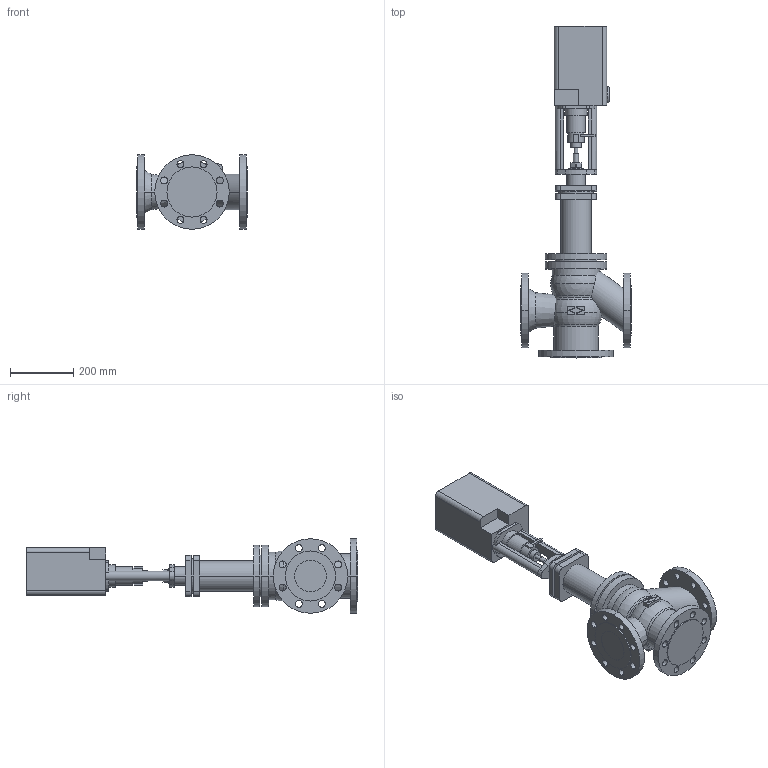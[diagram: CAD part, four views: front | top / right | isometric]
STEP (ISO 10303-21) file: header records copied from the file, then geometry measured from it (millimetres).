
FILE_DESCRIPTION(('OneSpaceDesigner STEP Export'),'2;1');
FILE_NAME('c000002449.stp','2006-09-21T11:48:22',(''),(''),'OneSpace Designer STEP processor for AP214 (Solid Model)','OneSpace Designer 13.20A 18-Aug-2005 (C) CoCreate Software GmbH','');
FILE_SCHEMA(('AUTOMOTIVE_DESIGN { 1 0 10303 214 1 1 1 1 }'));
Length unit declared in the file: millimetre
Products named in the file (2): 1; 2
Bounding box: 350 x 1047.7 x 235 mm (x, y, z)
Volume: 19293734.7 mm3; surface area: 960089.1 mm2
Topology: 2 solids, 2 shells, 258 faces, 667 edges, 439 vertices
Faces by surface type: cylinder 132, plane 106, torus 12, sphere 4, cone 4
Entity records: 7364 total; most frequent: CARTESIAN_POINT 1414, ORIENTED_EDGE 1326, DIRECTION 1103, EDGE_CURVE 663, VERTEX_POINT 439, AXIS2_PLACEMENT_3D 392, EDGE_LOOP 336, VECTOR 319
